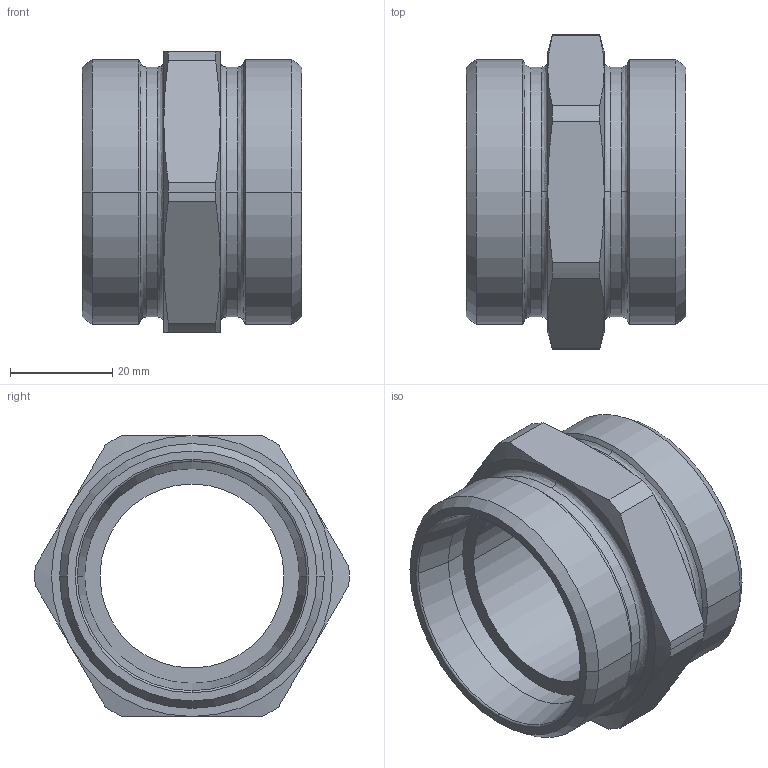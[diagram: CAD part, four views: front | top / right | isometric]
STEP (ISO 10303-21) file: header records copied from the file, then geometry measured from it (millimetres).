
FILE_DESCRIPTION((''),'2;1');
FILE_NAME('103513.stp','2007-10-31T11:33:41',(''),(''),'AutoCAD STEP 2000i','AutoCAD 2000i',', , ');
FILE_SCHEMA(('CONFIG_CONTROL_DESIGN'));
Length unit declared in the file: millimetre
Products named in the file (2): 103513.0; CHIAVE SMUSSATA#0
Assembly tree (1 placements, depth 2):
  103513.0
    CHIAVE SMUSSATA#0
Bounding box: 43 x 61.5 x 55 mm (x, y, z)
Volume: 40144.5 mm3; surface area: 15403.7 mm2
Topology: 1 solids, 1 shells, 70 faces, 172 edges, 108 vertices
Faces by surface type: cone 24, cylinder 22, plane 12, bspline 8, torus 4
Entity records: 2513 total; most frequent: CARTESIAN_POINT 752, DIRECTION 384, ORIENTED_EDGE 344, AXIS2_PLACEMENT_3D 172, EDGE_CURVE 172, VERTEX_POINT 108, CIRCLE 108, EDGE_LOOP 76
